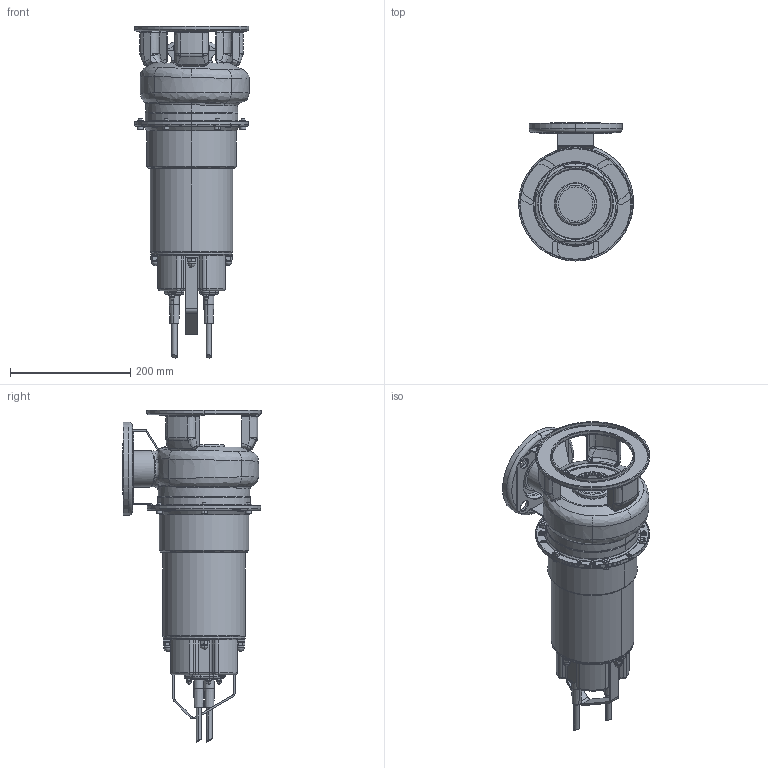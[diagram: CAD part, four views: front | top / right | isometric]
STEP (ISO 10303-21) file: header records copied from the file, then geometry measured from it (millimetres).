
FILE_DESCRIPTION((''),'2;1');
FILE_NAME('DWF_M100A_ASM','2009-09-28T',('Utente'),('"Ebara Pumps Europe +39.444.706811"'),'PRO/ENGINEER BY PARAMETRIC TECHNOLOGY CORPORATION, 2008400','PRO/ENGINEER BY PARAMETRIC TECHNOLOGY CORPORATION, 2008400','');
FILE_SCHEMA(('AUTOMOTIVE_DESIGN { 1 0 10303 214 1 1 1 1 }'));
Length unit declared in the file: millimetre
Products named in the file (18): 20698; DADO_A_SALDARE_M6; DADO_M5; 62032; 20986; 20985; 20987_ASM; 15032; 72074; CORPO_POMPA_DWF_ASM; CASSA_MOTORE_ALTA_M6X12; COPERCHIO_MOTORE_25082; 60022; 66002_SEMPLICE; 65003_SEMPLICE; DADO_CALOTTA_M5; VITE_TCC_M5X8_UNI7687; DWF_M100A_ASM
Assembly tree (32 placements, depth 4):
  DWF_M100A_ASM
    CORPO_POMPA_DWF_ASM
      20698
      DADO_A_SALDARE_M6  x6
      DADO_M5  x4
      62032
      20987_ASM
        20986
        20985
      15032
      72074  x3
    CASSA_MOTORE_ALTA_M6X12
    COPERCHIO_MOTORE_25082
    60022
    66002_SEMPLICE  x2
    65003_SEMPLICE  x2
    DADO_CALOTTA_M5  x4
    VITE_TCC_M5X8_UNI7687
Bounding box: 191.32 x 230 x 552.52 mm (x, y, z)
Volume: 4548303 mm3; surface area: 640697.9 mm2
Topology: 30 solids, 33 shells, 1309 faces, 3022 edges, 1840 vertices
Faces by surface type: plane 416, cylinder 407, bspline 178, torus 163, cone 111, sphere 30, extrusion 4
Entity records: 37855 total; most frequent: CARTESIAN_POINT 14550, DIRECTION 4858, ORIENTED_EDGE 4432, EDGE_CURVE 2218, AXIS2_PLACEMENT_3D 2042, VERTEX_POINT 1357, CIRCLE 1121, EDGE_LOOP 1071
